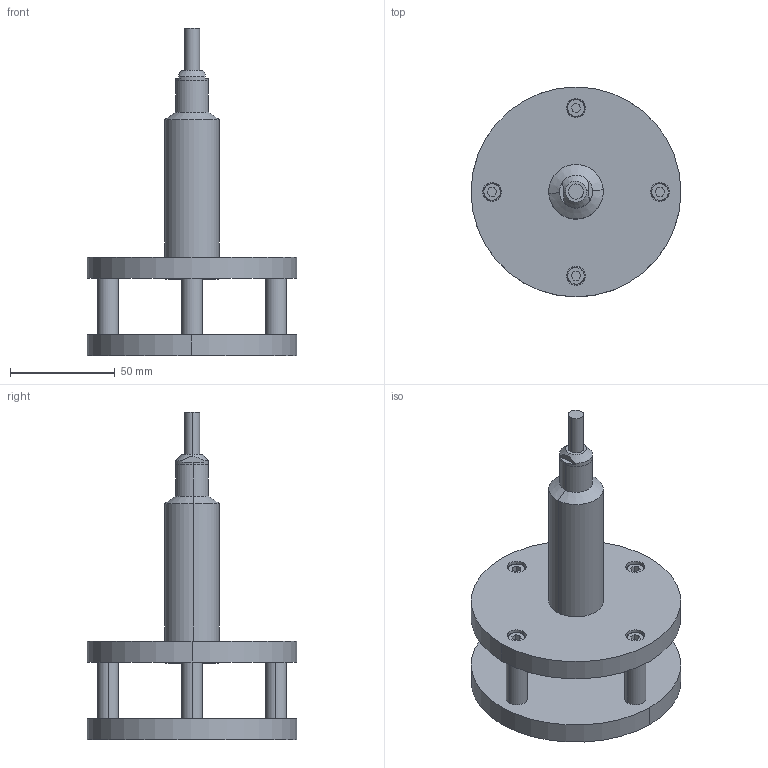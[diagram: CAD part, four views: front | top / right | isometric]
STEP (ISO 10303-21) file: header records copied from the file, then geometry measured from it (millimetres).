
FILE_DESCRIPTION (( 'STEP AP214' ), '1' );
FILE_NAME ('LD32-XXXX.STEP', '2025-06-03T20:19:14', ( '' ), ( '' ), 'SwSTEP 2.0', 'SolidWorks 2013', '' );
FILE_SCHEMA (( 'AUTOMOTIVE_DESIGN' ));
Length unit declared in the file: inch
Products named in the file (6): LD32-XXXX; 28MMｦt+ｦ-ｦ++; M4X40; ｦ+ｦ_; --存; +-ｦs
Assembly tree (11 placements, depth 2):
  LD32-XXXX
    +-ｦs
    --存
    ｦ+ｦ_  x4
    M4X40  x4
    28MMｦt+ｦ-ｦ++
Bounding box: 100 x 100 x 156 mm (x, y, z)
Volume: 203901.4 mm3; surface area: 57565.6 mm2
Topology: 13 solids, 13 shells, 480 faces, 1288 edges, 848 vertices
Faces by surface type: cylinder 380, plane 76, bspline 20, cone 4
Entity records: 13424 total; most frequent: CARTESIAN_POINT 7066, ORIENTED_EDGE 872, DIRECTION 746, EDGE_CURVE 436, AXIS2_PLACEMENT_3D 291, VERTEX_POINT 287, EDGE_LOOP 201, LENGTH_MEASURE_WITH_UNIT 189
